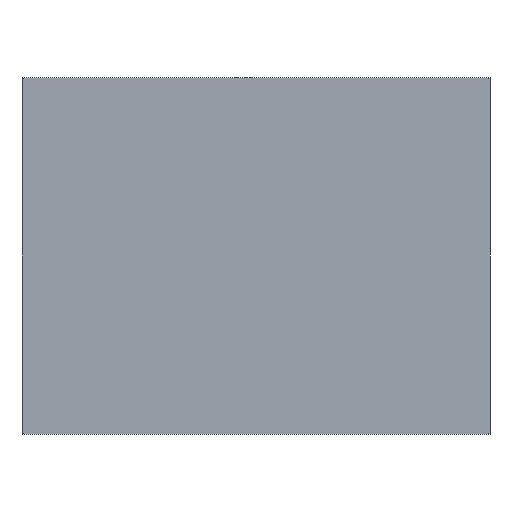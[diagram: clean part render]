
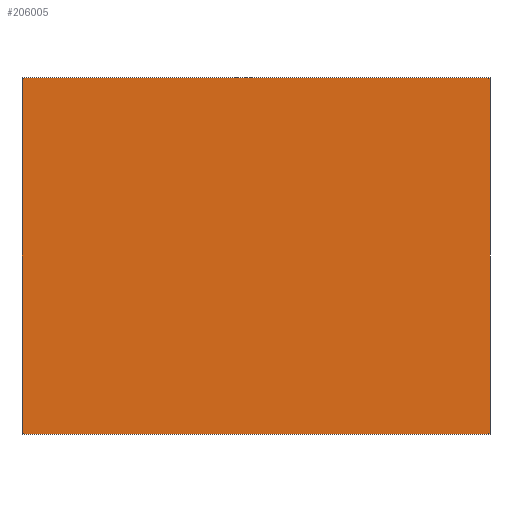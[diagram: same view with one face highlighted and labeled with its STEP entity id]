
A CAD part, left-side view. The second image highlights one B-rep face of the part: STEP entity #206005.
In plain terms, the highlighted planar face has unit normal (-1, 0, 0) as drawn and (0, 0, -1) by its records, which use the part's own axes.
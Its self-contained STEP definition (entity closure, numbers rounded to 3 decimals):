
#205878=DIRECTION('',(0.,1.,0.));
#205879=VECTOR('',#205878,495.);
#205880=CARTESIAN_POINT('',(-325.,-247.5,-1250.));
#205881=LINE('',#205880,#205879);
#205885=DIRECTION('',(-1.,0.,0.));
#205886=VECTOR('',#205885,650.);
#205887=CARTESIAN_POINT('',(325.,-247.5,-1250.));
#205888=LINE('',#205887,#205886);
#205892=DIRECTION('',(0.,1.,0.));
#205893=VECTOR('',#205892,495.);
#205894=CARTESIAN_POINT('',(325.,-247.5,-1250.));
#205895=LINE('',#205894,#205893);
#205899=DIRECTION('',(-1.,0.,0.));
#205900=VECTOR('',#205899,650.);
#205901=CARTESIAN_POINT('',(325.,247.5,-1250.));
#205902=LINE('',#205901,#205900);
#205914=CARTESIAN_POINT('',(325.,-247.5,-1250.));
#205915=CARTESIAN_POINT('',(-325.,-247.5,-1250.));
#205916=VERTEX_POINT('',#205914);
#205917=VERTEX_POINT('',#205915);
#205918=CARTESIAN_POINT('',(325.,247.5,-1250.));
#205919=CARTESIAN_POINT('',(-325.,247.5,-1250.));
#205920=VERTEX_POINT('',#205918);
#205921=VERTEX_POINT('',#205919);
#205994=CARTESIAN_POINT('',(325.,-260.,-1250.));
#205995=DIRECTION('',(0.,0.,-1.));
#205996=DIRECTION('',(-1.,0.,0.));
#205997=AXIS2_PLACEMENT_3D('',#205994,#205995,#205996);
#205998=PLANE('',#205997);
#205999=ORIENTED_EDGE('',*,*,#205945,.F.);
#206000=ORIENTED_EDGE('',*,*,#205960,.T.);
#206001=ORIENTED_EDGE('',*,*,#205976,.T.);
#206002=ORIENTED_EDGE('',*,*,#205989,.F.);
#206003=EDGE_LOOP('',(#205999,#206000,#206001,#206002));
#206004=FACE_OUTER_BOUND('',#206003,.F.);
#205945=EDGE_CURVE('',#205916,#205917,#205888,.T.);
#205960=EDGE_CURVE('',#205916,#205920,#205895,.T.);
#205976=EDGE_CURVE('',#205920,#205921,#205902,.T.);
#205989=EDGE_CURVE('',#205917,#205921,#205881,.T.);
#206005=ADVANCED_FACE('',(#206004),#205998,.T.);
